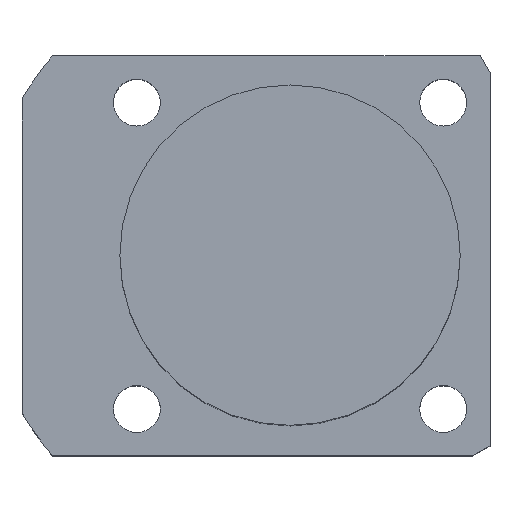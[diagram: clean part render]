
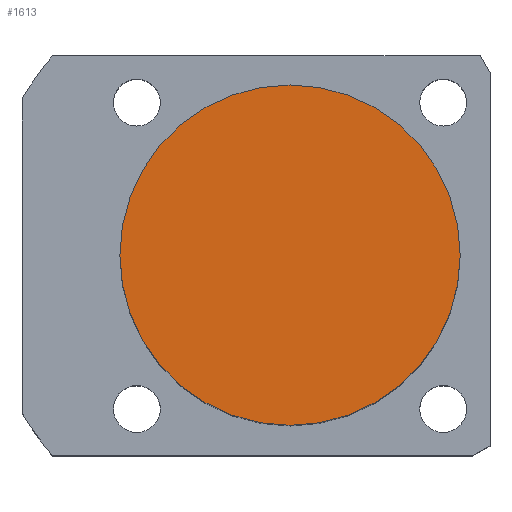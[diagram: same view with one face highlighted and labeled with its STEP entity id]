
A CAD part, top view. The second image highlights one B-rep face of the part: STEP entity #1613.
In plain terms, the highlighted planar face has unit normal (0, 0, 1).
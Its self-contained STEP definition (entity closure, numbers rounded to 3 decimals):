
#75 = DIRECTION ( 'NONE',  ( 0., 0., 1. ) ) ;
#154 = EDGE_CURVE ( 'NONE', #529, #578, #814, .T. ) ;
#170 = DIRECTION ( 'NONE',  ( 0., 0., 1. ) ) ;
#198 = CARTESIAN_POINT ( 'NONE',  ( 20., 0., 56.5 ) ) ;
#228 = DIRECTION ( 'NONE',  ( 0., 0., 1. ) ) ;
#283 = DIRECTION ( 'NONE',  ( 1., 0., 0. ) ) ;
#393 = AXIS2_PLACEMENT_3D ( 'NONE', #1434, #75, #473 ) ;
#473 = DIRECTION ( 'NONE',  ( 1., 0., 0. ) ) ;
#529 = VERTEX_POINT ( 'NONE', #198 ) ;
#578 = VERTEX_POINT ( 'NONE', #1196 ) ;
#591 = ORIENTED_EDGE ( 'NONE', *, *, #1770, .T. ) ;
#678 = CIRCLE ( 'NONE', #1091, 20. ) ;
#814 = CIRCLE ( 'NONE', #911, 20. ) ;
#894 = PLANE ( 'NONE',  #393 ) ;
#911 = AXIS2_PLACEMENT_3D ( 'NONE', #1537, #170, #1139 ) ;
#1038 = FACE_OUTER_BOUND ( 'NONE', #1688, .T. ) ;
#1050 = CARTESIAN_POINT ( 'NONE',  ( 0., 0., 56.5 ) ) ;
#1091 = AXIS2_PLACEMENT_3D ( 'NONE', #1050, #228, #283 ) ;
#1139 = DIRECTION ( 'NONE',  ( 1., 0., 0. ) ) ;
#1196 = CARTESIAN_POINT ( 'NONE',  ( -20., 0., 56.5 ) ) ;
#1361 = ORIENTED_EDGE ( 'NONE', *, *, #154, .T. ) ;
#1434 = CARTESIAN_POINT ( 'NONE',  ( 0., 0., 56.5 ) ) ;
#1537 = CARTESIAN_POINT ( 'NONE',  ( 0., 0., 56.5 ) ) ;
#1613 = ADVANCED_FACE ( 'NONE', ( #1038 ), #894, .T. ) ;
#1688 = EDGE_LOOP ( 'NONE', ( #591, #1361 ) ) ;
#1770 = EDGE_CURVE ( 'NONE', #578, #529, #678, .T. ) ;
